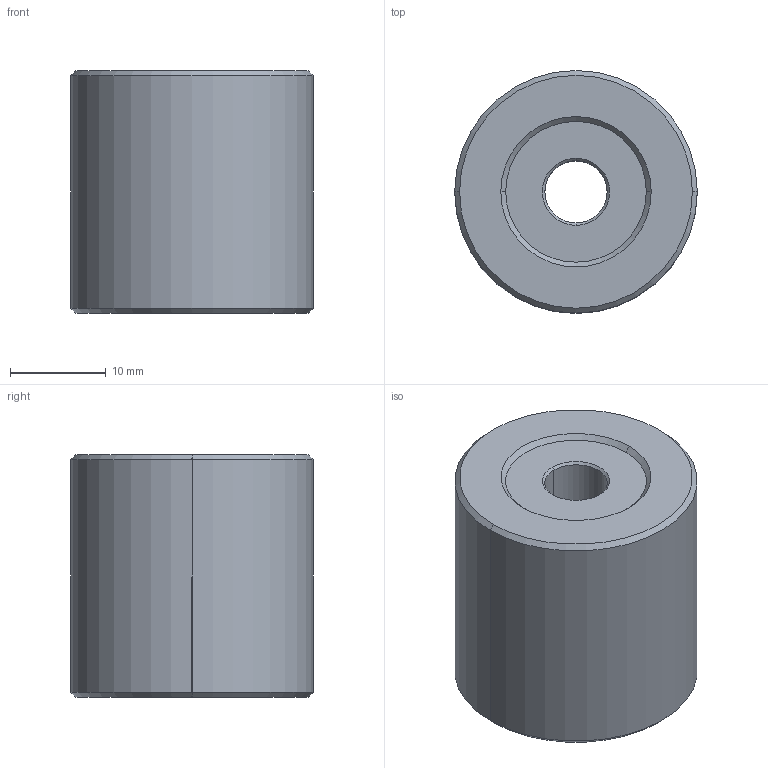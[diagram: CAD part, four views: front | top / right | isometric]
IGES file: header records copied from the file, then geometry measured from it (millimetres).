
Start section: 3D InterOp IGES (Version 21 0 3), Spatial Corp. Copyright (c) 1999-2007.
Global section: file name: export0.igs; native system: Spatial Corp.; preprocessor: 3D InterOp ACIS/IGES; author: Noname; organization: Noname; date: 20140203.221648; units: centimetre
Bounding box: 25.4 x 25.4 x 25.4 mm (x, y, z)
Surface area: 3439.4 mm2 (no closed solid volume)
Topology: 0 solids, 0 shells, 20 faces, 80 edges, 80 vertices
Faces by surface type: revolution 16, extrusion 4
